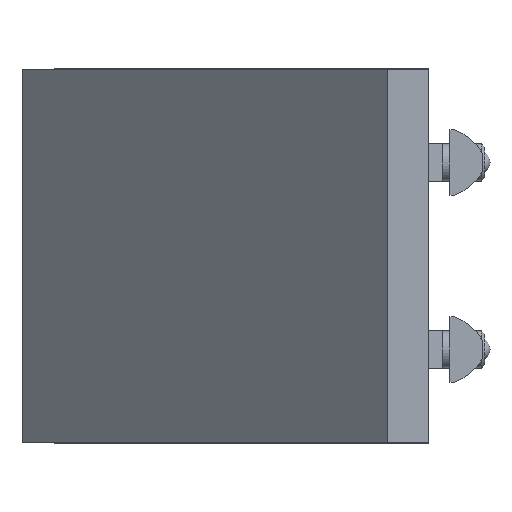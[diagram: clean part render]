
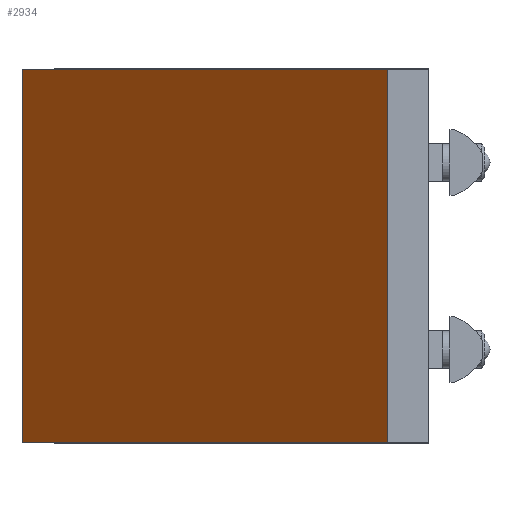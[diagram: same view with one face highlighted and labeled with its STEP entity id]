
A CAD part, left-side view. The second image highlights one B-rep face of the part: STEP entity #2934.
In plain terms, the highlighted planar face has unit normal (-0.707, 0.707, 0).
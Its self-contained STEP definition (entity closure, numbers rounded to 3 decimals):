
#583=ORIENTED_EDGE('',*,*,#955,.T.);
#584=ORIENTED_EDGE('',*,*,#951,.F.);
#585=ORIENTED_EDGE('',*,*,#956,.F.);
#586=ORIENTED_EDGE('',*,*,#953,.T.);
#951=EDGE_CURVE('',#1171,#1170,#1449,.T.);
#953=EDGE_CURVE('',#1173,#1172,#1451,.T.);
#955=EDGE_CURVE('',#1172,#1170,#1453,.T.);
#956=EDGE_CURVE('',#1173,#1171,#1454,.T.);
#1170=VERTEX_POINT('',#4198);
#1171=VERTEX_POINT('',#4200);
#1172=VERTEX_POINT('',#4204);
#1173=VERTEX_POINT('',#4206);
#1449=LINE('',#4201,#1725);
#1451=LINE('',#4205,#1727);
#1453=LINE('',#4209,#1729);
#1454=LINE('',#4210,#1730);
#1725=VECTOR('',#3546,1000.);
#1727=VECTOR('',#3550,1000.);
#1729=VECTOR('',#3554,1000.);
#1730=VECTOR('',#3555,1000.);
#1880=EDGE_LOOP('',(#583,#584,#585,#586));
#2034=FACE_BOUND('',#1880,.T.);
#2164=PLANE('',#3069);
#2934=ADVANCED_FACE('',(#2034),#2164,.F.);
#3069=AXIS2_PLACEMENT_3D('',#4208,#3552,#3553);
#3546=DIRECTION('',(0.,0.,-1.));
#3550=DIRECTION('',(0.,0.,-1.));
#3552=DIRECTION('',(0.707,-0.707,0.));
#3553=DIRECTION('',(0.707,0.707,0.));
#3554=DIRECTION('',(-0.707,-0.707,0.));
#3555=DIRECTION('',(-0.707,-0.707,0.));
#4198=CARTESIAN_POINT('',(-7.,8.899,-39.99));
#4200=CARTESIAN_POINT('',(-7.,8.899,39.99));
#4201=CARTESIAN_POINT('',(-7.,8.899,39.99));
#4204=CARTESIAN_POINT('',(71.101,87.,-39.99));
#4205=CARTESIAN_POINT('',(71.101,87.,39.99));
#4206=CARTESIAN_POINT('',(71.101,87.,39.99));
#4208=CARTESIAN_POINT('',(71.101,87.,39.99));
#4209=CARTESIAN_POINT('',(71.101,87.,-39.99));
#4210=CARTESIAN_POINT('',(71.101,87.,39.99));
